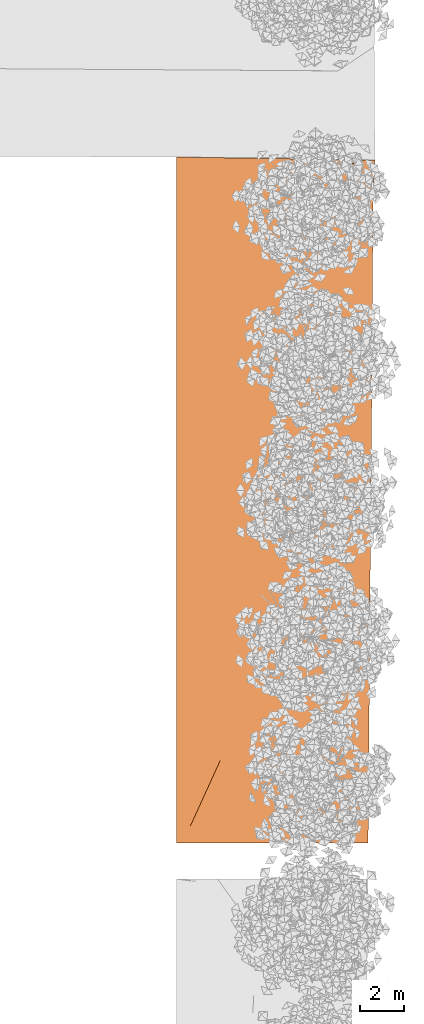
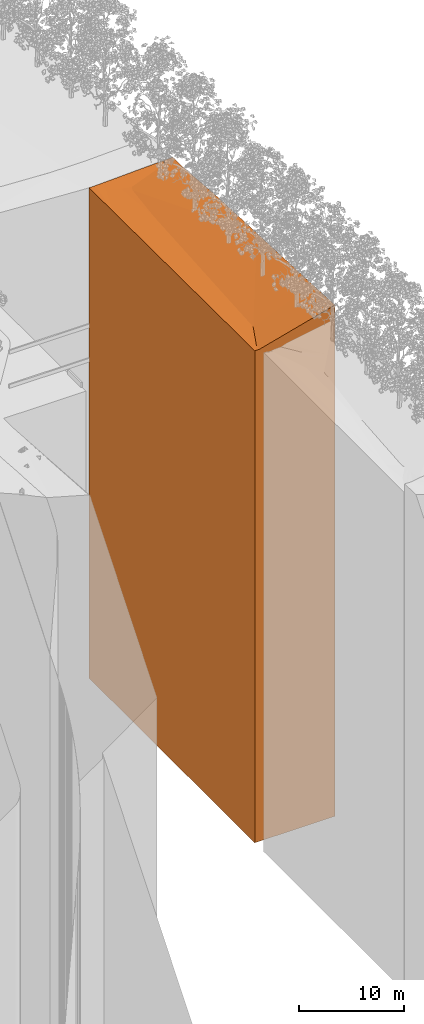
# One storey, part 64 of 69: 1 proxy.
"""IFC2X3 building model written with IfcOpenShell, lengths in millimetres."""

from ifc_helpers import new_model, entity, si_unit, converted_unit, derived_unit, money_unit, direction, frame, origin_with_axes, place, context, subcontext, project, spatial, faceted_brep, material, type_object, element, save


model = new_model("IFC2X3")

# Units and contexts
model_context = context("Model", 3, precision=0.01, world=origin_with_axes(), true_north=direction((0.0, 1.0)))
body_context = subcontext(model_context, "Body", "Model", "MODEL_VIEW")
ifc_project = project(units=[si_unit("LENGTHUNIT", "METRE", prefix="MILLI"), si_unit("AREAUNIT", "SQUARE_METRE"), si_unit("VOLUMEUNIT", "CUBIC_METRE"), converted_unit("PLANEANGLEUNIT", "DEGREE", entity("IfcPlaneAngleMeasure", 0.0174532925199), si_unit("PLANEANGLEUNIT", "RADIAN"), dimensions=[0, 0, 0, 0, 0, 0, 0]), si_unit("SOLIDANGLEUNIT", "STERADIAN"), money_unit("EUR"), converted_unit("TIMEUNIT", "Year", entity("IfcTimeMeasure", 31556926.0), si_unit("TIMEUNIT", "SECOND"), dimensions=[0, 0, 1, 0, 0, 0, 0]), si_unit("MASSUNIT", "GRAM", prefix="KILO"), si_unit("THERMODYNAMICTEMPERATUREUNIT", "DEGREE_CELSIUS"), si_unit("LUMINOUSINTENSITYUNIT", "LUMEN"), si_unit("ENERGYUNIT", "JOULE", prefix="MEGA"), derived_unit("THERMALCONDUCTANCEUNIT", [(si_unit("POWERUNIT", "WATT"), 1), (si_unit("LENGTHUNIT", "METRE"), -1), (si_unit("THERMODYNAMICTEMPERATUREUNIT", "KELVIN"), -1)]), derived_unit("SPECIFICHEATCAPACITYUNIT", [(si_unit("ENERGYUNIT", "JOULE"), 1), (si_unit("MASSUNIT", "GRAM", prefix="KILO"), -1), (si_unit("THERMODYNAMICTEMPERATUREUNIT", "KELVIN"), -1)]), derived_unit("MASSDENSITYUNIT", [(si_unit("MASSUNIT", "GRAM", prefix="KILO"), 1), (si_unit("VOLUMEUNIT", "CUBIC_METRE"), -1)])], contexts=[model_context])

# Site, building, storey
site_placement = place(None, origin_with_axes())
site = spatial("IfcSite", under=ifc_project, at=site_placement, Name="Puškini 31, Narva", CompositionType="ELEMENT")
building_placement = place(site_placement, origin_with_axes())
building = spatial("IfcBuilding", under=site, at=building_placement, Name="Narva Riigigümnaasium", CompositionType="ELEMENT")
storey_placement = place(building_placement, origin_with_axes())
storey = spatial("IfcBuildingStorey", under=building, at=storey_placement, Name="1.korrus 0.00", CompositionType="ELEMENT", Elevation=0.0)

# Proxy
ifc_material = material(Name="Roheala")
building_element_proxy_type = type_object("IfcBuildingElementProxyType", Name="Roheala", PredefinedType="NOTDEFINED")
proxy_placement = place(storey_placement, frame((54779.9999877, 222979.80172, -61100.0), z_axis=(0.0, 0.0, 1.0), x_axis=(1.0, 0.0, 0.0)))
element("IfcBuildingElementProxy", 1, at=proxy_placement, inside=storey, type_object=building_element_proxy_type, material=ifc_material, Name="Roheala", context=body_context, shape_type="Brep", body=[
    faceted_brep([(8004.30725882, 17416.8211446, 58100.0), (8303.48253402, 16623.5579723, 58200.0), (8936.01143278, 18397.1952971, 58200.0), (8953.10060719, 20077.2771313, 58100.0), (8036.94135489, 13625.2324013, 58200.0), (7604.49549024, 12919.3327882, 58100.0), (8602.6578091, 15830.2948, 58300.0), (8918.92225836, 16717.1134619, 58300.0), (8987.27895604, 23437.4408026, 0.0), (8987.27895604, 23437.4408026, 57900.0), (8970.18978161, 21757.3589665, 58000.0), (8901.83308397, 15037.0316286, 58400.0), (8901.83308397, 15037.0316286, 0.0), (7705.13198373, 18210.0843168, 58000.0), (8469.38721966, 14331.1320154, 58300.0), (7172.04962546, 12213.4331741, 58000.0), (6436.54551374, 4128.78794732, 58200.0), (6118.4136376, 4101.20579397, 58100.0), (9000.75377356, 28063.0768144, 0.0), (9000.75377356, 28063.0768144, 57500.0), (8997.38506903, 26906.6678106, 57600.0), (8994.01636473, 25750.2588076, 57700.0), (8990.64766044, 24593.8498046, 57800.0), (7405.95670865, 19003.3474891, 57900.0), (8887.41517501, 13091.3266213, 58500.0), (8886.26886393, 12936.6312888, 58500.0), (8872.99726608, 11145.6216158, 58600.0), (8858.46947165, 9185.08750187, 58700.0), (8844.16144821, 7254.21160478, 58800.0), (8829.74353928, 5308.50659929, 58900.0), (8829.74353928, 5308.50659929, 0.0), (0.0, 31460.1982799, 0.0), (370.064931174, 31463.3636566, 0.0), (9098.40907054, 31330.3274609, 0.0), (9067.47774419, 30548.1075719, 0.0), (9004.12247787, 29219.4858183, 0.0), (8816.18305669, 3570.15794172, 0.0), (8786.56049304, 0.0, 0.0), (1.40536116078e-05, 0.588286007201, 0.0), (6754.67738976, 4156.37009976, 58300.0), (6739.6037608, 11507.53356, 57900.0), (5800.28176158, 4073.62364154, 58000.0), (5607.2465496, 1693.08049996, 58100.0), (5886.05788055, 1535.422246, 58200.0), (9004.12247787, 29219.4858183, 57400.0), (7322.03793056, 25296.6880648, 57500.0), (7738.34818701, 24831.8762488, 57600.0), (8154.65844358, 24367.0644337, 57700.0), (8570.96869992, 23902.2526176, 57800.0), (7106.78143332, 19796.6106605, 57800.0), (7072.80926577, 4183.95225219, 58400.0), (7390.94114192, 4211.53440554, 58500.0), (7709.07301793, 4239.11655797, 58600.0), (8835.51845439, 9063.07760057, 58700.0), (8809.09274776, 7046.12060793, 58800.0), (8345.3367701, 4294.28086376, 58800.0), (8663.46864611, 4321.86301619, 58900.0), (8816.18305669, 3570.15794172, 59000.0), (0.0, 31460.1982799, 56800.0), (370.064931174, 31463.3636566, 56800.0), (2549.73174508, 31430.1414811, 56900.0), (4424.47164135, 31401.5669589, 57000.0), (6279.62995203, 31373.2908964, 57097.5327456), (8165.58788437, 31344.5453904, 57192.4863064), (9098.40907054, 31330.3274609, 57239.4516665), (9067.47774419, 30548.1075719, 57300.0), (8803.67664267, 2062.86526299, 59100.0), (8790.77694415, 508.17332526, 59200.0), (8786.56049304, 0.0, 59200.0), (8682.90966165, 0.00693972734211, 59200.0), (8601.35917554, 0.0123997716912, 59173.8848443), (8327.50954125, 0.0307348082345, 59100.0), (7956.86568748, 0.0555505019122, 59000.0), (7586.22183353, 0.0803661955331, 58900.0), (7215.57797969, 0.105181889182, 58800.0), (6844.93412576, 0.129997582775, 58700.0), (6474.29027234, 0.154813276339, 58600.0), (6103.64641846, 0.17962896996, 58500.0), (5733.00256456, 0.204444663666, 58400.0), (5362.35871068, 0.229260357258, 58300.0), (4991.71485678, 0.254076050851, 58200.0), (4621.07100302, 0.278891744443, 58100.0), (4250.42714912, 0.30370743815, 58000.0), (3879.78329521, 0.328523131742, 57900.0), (3509.13944133, 0.353338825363, 57800.0), (3138.49558742, 0.378154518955, 57700.0), (2767.85173393, 0.402970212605, 57600.0), (2397.26683298, 0.427781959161, 57500.0), (2027.30369489, 0.452552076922, 57400.0), (1657.34055707, 0.477322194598, 57300.0), (1287.37741884, 0.502092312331, 57200.0), (917.414281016, 0.526862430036, 57100.0), (547.451143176, 0.551632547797, 57000.0), (508.30139685, 0.55425373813, 56989.4179332), (67.0789880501, 0.58379487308, 56982.4718059), (1.40536116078e-05, 0.588286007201, 56991.606534), (1.40536187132e-05, 6185.44194444, 56954.3847974), (1.40536116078e-05, 27048.7553129, 56826.9386835), (6164.86921127, 1377.76399114, 58300.0), (6307.15789614, 10801.6339468, 57800.0), (5482.14988556, 4046.04148911, 57900.0), (5328.43521888, 1850.73875482, 58000.0), (6905.72767409, 25761.4998799, 57400.0), (6209.25560795, 22176.4001774, 57500.0), (6508.43088315, 21383.1370051, 57600.0), (6807.60615823, 20589.8738328, 57700.0), (6443.68054223, 1220.10573718, 58400.0), (6722.49187294, 1062.44748232, 58500.0), (8027.20489408, 4266.69871132, 58700.0), (7558.92586544, 589.472718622, 58800.0), (7837.73719628, 431.814464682, 58900.0), (680.286593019, 31247.5488257, 56800.0), (2551.14632284, 31239.7420751, 56900.0), (4422.00605279, 31231.9353253, 57000.0), (7870.8557595, 30890.9859914, 57100.0), (8689.72217144, 31105.2742965, 57200.0), (8340.94224507, 29277.475759, 57300.0), (8116.54852711, 274.156209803, 59000.0), (8739.5466232, 1737.97334951, 59100.0), (8395.35985795, 116.497955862, 59100.0), (7280.11453461, 747.130973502, 58700.0), (7001.3032039, 904.789228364, 58600.0), (5049.62388805, 2008.3970097, 57900.0), (4770.81255721, 2166.05526364, 57800.0), (4492.00122638, 2323.71351852, 57700.0), (4213.18989554, 2481.37177246, 57600.0), (2423.84929869, 46.1586258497, 57500.0), (2360.82786304, 574.227080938, 57400.0), (2297.80642726, 1102.2955351, 57300.0), (2234.78499173, 1630.36399017, 57200.0), (2171.76355595, 2158.43244434, 57100.0), (2108.7421203, 2686.50089943, 57000.0), (2045.72068463, 3214.56935357, 56900.0), (637.703058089, 792.302161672, 56900.0), (248.586287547, 6175.58322451, 56900.0), (5164.01800953, 4018.45933574, 57800.0), (5874.71203137, 10095.7343327, 57700.0), (6489.41741764, 26226.3116959, 57300.0), (5910.08033286, 22969.6633497, 57400.0), (5009.82030205, 8683.93510545, 57500.0), (5442.26616659, 9389.83471864, 57600.0), (6292.86578261, 31224.1285746, 57100.0), (8163.72551256, 31216.3218249, 57200.0), (7677.7620117, 29335.4656998, 57200.0), (4845.88613352, 3990.87718331, 57700.0), (4527.7542575, 3963.29503088, 57600.0), (3934.37856471, 2639.03002734, 57500.0), (3655.567234, 2796.6882822, 57400.0), (3376.75590304, 2954.34653616, 57300.0), (3097.94457232, 3112.00479102, 57200.0), (2819.13324137, 3269.66304498, 57100.0), (2540.32191065, 3427.32129984, 57000.0), (1982.69924898, 3742.63780866, 56800.0), (2261.5105797, 3584.9795538, 56900.0), (1370.80189395, 30714.6023987, 56700.0), (5610.90505778, 23762.926522, 57300.0), (6073.10716106, 26691.123511, 57200.0), (4577.37443728, 7978.03549137, 57400.0), (4209.62238135, 3935.71287752, 57500.0), (5414.2565239, 30248.1210761, 56800.0), (6233.12293584, 30462.4093812, 56900.0), (7051.98934767, 30676.6976863, 57000.0), (7014.58177808, 29393.4556396, 57100.0), (3891.49050534, 3908.13072509, 57400.0), (3573.35862932, 3880.54857266, 57300.0), (3255.22675318, 3852.96641931, 57200.0), (2937.09487716, 3825.38426688, 57100.0), (2618.96300114, 3797.80211445, 57000.0), (2300.831125, 3770.21996109, 56900.0), (2536.45574713, 14130.5428107, 56700.0), (4595.39011208, 30033.8327709, 56700.0), (4144.9285725, 7272.13587728, 57300.0), (5311.72978257, 24556.1896933, 57200.0), (5656.79690473, 27155.935327, 57100.0), (5688.22131122, 29509.4355211, 56900.0), (5025.04107784, 29567.4254618, 56800.0), (6351.40154471, 29451.4455803, 57000.0), (3712.48270785, 6566.23626411, 57200.0), (3280.03684307, 5860.33665002, 57100.0), (2847.59097841, 5154.43703592, 57000.0), (2415.14511376, 4448.53742275, 56900.0), (4115.028682, 27729.2423825, 56800.0), (3815.85340691, 28522.5055548, 56700.0), (4361.86084434, 29625.4154017, 56700.0), (2701.6609608, 30046.4676748, 56600.0), (3776.52370014, 29819.5444658, 56600.0), (3090.21224515, 24518.4478118, 56600.0), (5012.55450737, 25349.4528657, 57100.0), (5240.48664828, 27620.747143, 57000.0), (4407.86613536, 28550.3707741, 56800.0), (4824.17639182, 28085.5589581, 56900.0), (4713.37923228, 26142.7160379, 57000.0), (4414.2039572, 26935.9792102, 56900.0), (3991.55587879, 29015.1825892, 56700.0), (3516.67813183, 29315.7687271, 56600.0), (3698.68061085, 29683.4053424, 56600.0), (3575.24562245, 29479.9944053, 56600.0)], [[[0, 1, 2, 3]], [[4, 1, 0, 5]], [[1, 6, 7, 2]], [[8, 9, 10, 3, 2, 7, 11, 12]], [[13, 0, 3, 10]], [[1, 4, 14, 6]], [[0, 13, 15, 5]], [[16, 4, 5, 17]], [[11, 7, 6]], [[18, 19, 20, 21, 22, 9, 8]], [[10, 9, 23, 13]], [[12, 11, 24, 25, 26, 27, 28, 29, 30]], [[31, 32, 33, 34, 35, 18, 8, 12, 30, 36, 37, 38]], [[4, 16, 39, 14]], [[11, 6, 14]], [[13, 23, 40, 15]], [[15, 41, 17, 5]], [[17, 42, 43, 16]], [[35, 44, 19, 18]], [[45, 46, 20, 19]], [[46, 47, 21, 20]], [[47, 48, 22, 21]], [[9, 22, 48]], [[49, 23, 9, 48]], [[24, 11, 50, 51]], [[25, 24, 51]], [[26, 25, 51]], [[27, 26, 52]], [[27, 53, 28]], [[28, 54, 55, 56, 29]], [[30, 29, 57, 36]], [[31, 58, 59, 32]], [[32, 59, 60, 61, 62, 63, 64, 33]], [[33, 64, 65, 34]], [[34, 65, 44, 35]], [[36, 57, 66, 67, 68, 37]], [[37, 68, 69, 70, 71, 72, 73, 74, 75, 76, 77, 78, 79, 80, 81, 82, 83, 84, 85, 86, 87, 88, 89, 90, 91, 92, 93, 94, 95, 38]], [[38, 95, 96, 97, 58, 31]], [[16, 43, 98, 39]], [[14, 39, 50, 11]], [[99, 40, 23, 49]], [[40, 100, 41, 15]], [[41, 101, 42, 17]], [[80, 43, 42, 81]], [[44, 102, 45, 19]], [[46, 45, 103, 104]], [[46, 104, 105, 47]], [[48, 47, 105, 49]], [[50, 106, 107, 51]], [[26, 51, 52]], [[53, 27, 52]], [[54, 28, 53, 108, 55]], [[109, 110, 56, 55]], [[57, 29, 56]], [[59, 58, 111]], [[59, 111, 60]], [[60, 112, 61]], [[61, 113, 62]], [[63, 62, 114]], [[64, 63, 115]], [[65, 64, 115]], [[44, 65, 116]], [[66, 57, 117]], [[66, 118, 67]], [[69, 68, 67]], [[70, 69, 67, 118, 119]], [[70, 119, 71]], [[71, 119, 117, 72]], [[110, 73, 72, 117]], [[109, 74, 73, 110]], [[74, 109, 120, 75]], [[75, 120, 121, 76]], [[76, 121, 107, 77]], [[106, 78, 77, 107]], [[98, 79, 78, 106]], [[79, 98, 43, 80]], [[81, 42, 101, 82]], [[82, 101, 122, 83]], [[83, 122, 123, 84]], [[84, 123, 124, 85]], [[85, 124, 125, 86]], [[87, 86, 126]], [[87, 126, 127, 88]], [[128, 89, 88, 127]], [[128, 129, 90, 89]], [[130, 91, 90, 129]], [[92, 91, 130, 131]], [[132, 133, 93, 92, 131]], [[94, 93, 133]], [[94, 133, 96, 95]], [[96, 134, 97]], [[58, 97, 111]], [[39, 98, 106, 50]], [[99, 135, 100, 40]], [[99, 49, 105, 136]], [[100, 122, 101, 41]], [[137, 102, 44, 116]], [[138, 103, 45, 102]], [[139, 140, 104, 103]], [[136, 105, 104, 140]], [[107, 121, 52, 51]], [[52, 108, 53]], [[120, 109, 55, 108]], [[57, 56, 110, 117]], [[60, 111, 112]], [[61, 112, 113]], [[62, 113, 141]], [[62, 141, 114]], [[114, 142, 63]], [[142, 115, 63]], [[65, 115, 143, 116]], [[118, 66, 117]], [[117, 119, 118]], [[52, 121, 120, 108]], [[135, 123, 122, 100]], [[144, 124, 123, 135]], [[124, 144, 145, 125]], [[146, 126, 86, 125]], [[146, 147, 127, 126]], [[148, 128, 127, 147]], [[148, 149, 129, 128]], [[130, 129, 149, 150]], [[151, 131, 130, 150]], [[152, 133, 132]], [[153, 132, 131, 151]], [[96, 133, 134]], [[134, 152, 97]], [[154, 111, 97]], [[136, 144, 135, 99]], [[155, 138, 102, 137]], [[143, 156, 137, 116]], [[157, 139, 103, 138]], [[145, 140, 139, 158]], [[140, 145, 144, 136]], [[112, 111, 159, 160]], [[113, 112, 160, 161]], [[141, 113, 161, 114]], [[142, 114, 115]], [[114, 162, 143, 115]], [[158, 146, 125, 145]], [[163, 147, 146, 158]], [[148, 147, 163, 164]], [[149, 148, 164, 165]], [[166, 150, 149, 165]], [[167, 151, 150, 166]], [[152, 134, 133]], [[132, 153, 152]], [[168, 153, 151, 167]], [[97, 152, 169]], [[170, 159, 111, 154]], [[97, 169, 154]], [[138, 155, 171, 157]], [[172, 155, 137, 156]], [[143, 162, 173, 156]], [[157, 163, 158, 139]], [[174, 160, 159, 175]], [[160, 174, 176, 161]], [[161, 176, 162, 114]], [[171, 164, 163, 157]], [[164, 171, 177, 165]], [[165, 177, 178, 166]], [[167, 166, 178, 179]], [[153, 168, 152]], [[180, 168, 167, 179]], [[181, 182, 169, 152]], [[175, 159, 170, 183]], [[184, 185, 170, 154]], [[184, 154, 169, 186]], [[177, 171, 155, 172]], [[156, 173, 187, 172]], [[176, 188, 173, 162]], [[175, 189, 190, 174]], [[174, 190, 188, 176]], [[177, 172, 187, 178]], [[191, 179, 178, 187]], [[168, 180, 152]], [[180, 179, 191, 192]], [[193, 182, 181, 189]], [[182, 194, 186, 169]], [[181, 152, 180, 192]], [[183, 170, 185, 195]], [[189, 175, 183, 193]], [[184, 186, 194, 196, 195, 185]], [[191, 187, 173, 188]], [[181, 192, 190, 189]], [[188, 190, 192, 191]], [[182, 193, 196, 194]], [[193, 183, 195, 196]]]),
])

save(model, "model.ifc")
